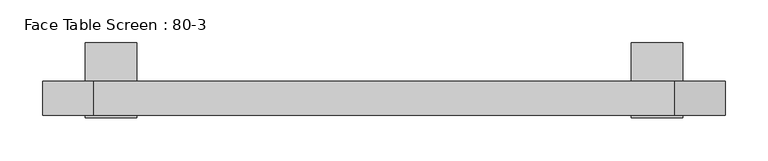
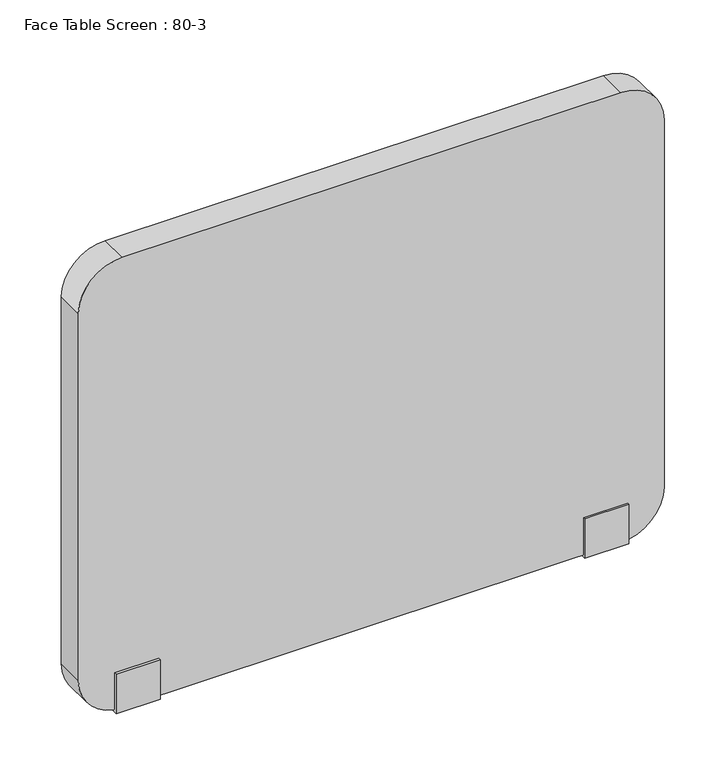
"""IFC4 building model written with IfcOpenShell, lengths in millimetres: furniture geometry, Face Table Screen : 80-3."""

from ifc_helpers import new_model, si_unit, point, frame, frame_2d, origin, place, context, project, spatial, polyline, circle_curve, trimmed, segment, composite_curve, outline, extrude, source, transform, mapped, element, save


def face_table_screen_80_3_a9bba97a(model_context):
    return source(origin(), model_context, "Body", "SweptSolid", [
        extrude(outline(polyline([(-22.9999947, -256.0), (-22.9999997, -199.0433898), (-20.0, -199.0433898), (-20.0, -253.0), (20.0, -253.0), (20.0, -22.0), (65.0, -22.0), (65.0, -25.0433898), (23.0000062, -25.0433898), (22.9999947, -256.0), (-22.9999947, -256.0)])), frame((290.0, 0.0, 0.0), z_axis=(1.0, 0.0, 0.0), x_axis=(0.0, 1.0, 0.0)), (0.0, 0.0, 1.0), 60.0),
        extrude(outline(polyline([(-22.9999947, -256.0), (-22.9999997, -199.0433898), (-20.0, -199.0433898), (-20.0, -253.0), (20.0, -253.0), (20.0, -22.0), (65.0, -22.0), (65.0, -25.0433898), (23.0000062, -25.0433898), (22.9999947, -256.0), (-22.9999947, -256.0)])), frame((-350.0, 0.0, 0.0), z_axis=(1.0, 0.0, 0.0), x_axis=(0.0, 1.0, 0.0)), (0.0, 0.0, 1.0), 60.0),
        extrude(outline(composite_curve([segment(polyline([(397.0, 340.0), (397.0, -340.0)]), True, "CONTINUOUS"), segment(trimmed(circle_curve(frame_2d((337.0, -340.0)), 60.0), [point((397.0, -340.0))], [point((337.0, -400.0))], False, "CARTESIAN"), True, "CONTINUOUS"), segment(polyline([(337.0, -400.0), (-193.0, -400.0)]), True, "CONTINUOUS"), segment(trimmed(circle_curve(frame_2d((-193.0, -340.0)), 60.0), [point((-193.0, -400.0))], [point((-253.0, -340.0))], False, "CARTESIAN"), True, "CONTINUOUS"), segment(polyline([(-253.0, -340.0), (-253.0, 340.0)]), True, "CONTINUOUS"), segment(trimmed(circle_curve(frame_2d((-193.0, 340.0)), 60.0), [point((-253.0, 340.0))], [point((-193.0, 400.0))], False, "CARTESIAN"), True, "CONTINUOUS"), segment(polyline([(-193.0, 400.0), (337.0, 400.0)]), True, "CONTINUOUS"), segment(trimmed(circle_curve(frame_2d((337.0, 340.0)), 60.0), [point((337.0, 400.0))], [point((397.0, 340.0))], False, "CARTESIAN"), True, "CONTINUOUS")], self_intersect=False)), frame((0.0, -20.0, 0.0), z_axis=(0.0, 1.0, 0.0), x_axis=(0.0, 0.0, 1.0)), (0.0, 0.0, 1.0), 40.0),
    ])


if __name__ == "__main__":
    model = new_model("IFC4")
    model_context = context("Model", 3, world=origin())
    ifc_project = project(units=[si_unit("LENGTHUNIT", "METRE", prefix="MILLI")], contexts=[model_context])
    site = spatial("IfcSite", under=ifc_project)
    building = spatial("IfcBuilding", under=site)
    placement = place(None, origin())
    face_table_screen_80_3_shape = face_table_screen_80_3_a9bba97a(model_context)
    element("IfcFurniture", 1, ObjectType="Face Table Screen : 80-3", at=placement, inside=building, context=model_context, shape_type="MappedRepresentation", body=[
        mapped(face_table_screen_80_3_shape, transform((0.0, 0.0, 0.0), x_axis=(1.0, 0.0, 0.0), y_axis=(0.0, 1.0, 0.0), z_axis=(0.0, 0.0, 1.0))),
    ])
    save(model, "model.ifc")
